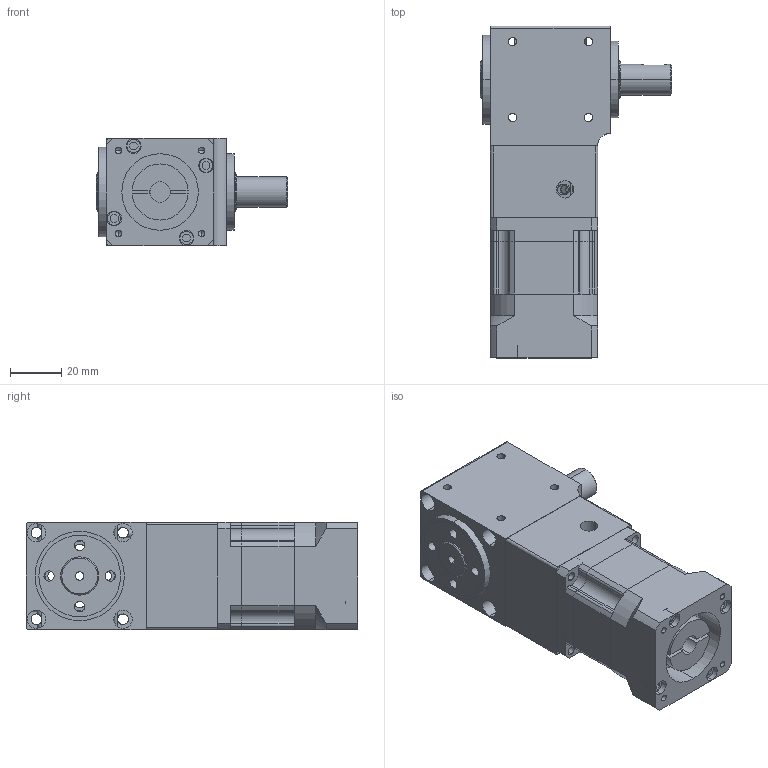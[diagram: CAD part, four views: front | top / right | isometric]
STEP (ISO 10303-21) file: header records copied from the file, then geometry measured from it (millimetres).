
FILE_DESCRIPTION (( 'STEP AP203' ), '1' );
FILE_NAME ('JKS42-L2.STEP', '2020-11-05T03:07:50', ( '微软用户' ), ( '微软中国' ), 'SwSTEP 2.0', 'SolidWorks 2013', '' );
FILE_SCHEMA (( 'CONFIG_CONTROL_DESIGN' ));
Length unit declared in the file: millimetre
Products named in the file (3): JKS42-L2; JKS42-L1单轴（配伺服尺寸8-30-45-M3)_1; GF42单级模型（8-24 30-2 4-M3-46）
Assembly tree (2 placements, depth 2):
  JKS42-L2
    JKS42-L1单轴（配伺服尺寸8-30-45-M3)_1
    GF42单级模型（8-24 30-2 4-M3-46）
Bounding box: 75 x 130 x 42 mm (x, y, z)
Volume: 89807.4 mm3; surface area: 54571.6 mm2
Topology: 3 solids, 11 shells, 426 faces, 1180 edges, 795 vertices
Faces by surface type: cylinder 262, plane 140, cone 20, bspline 4
Entity records: 15152 total; most frequent: CARTESIAN_POINT 3541, DIRECTION 2526, ORIENTED_EDGE 2158, EDGE_CURVE 1170, AXIS2_PLACEMENT_3D 986, VERTEX_POINT 795, CIRCLE 558, VECTOR 554
